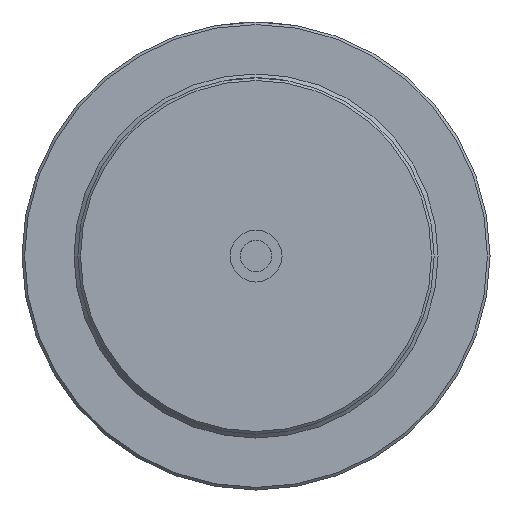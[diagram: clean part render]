
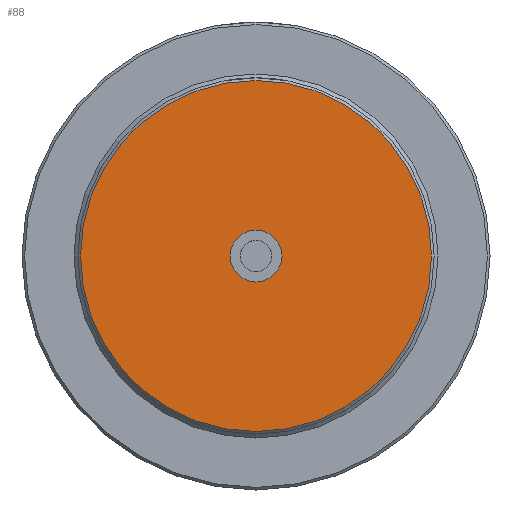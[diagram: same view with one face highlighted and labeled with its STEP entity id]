
A CAD part, left-side view. The second image highlights one B-rep face of the part: STEP entity #88.
In plain terms, the highlighted planar face has unit normal (-1, 0, 0).
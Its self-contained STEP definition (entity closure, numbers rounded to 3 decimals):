
#88 = ADVANCED_FACE( '', ( #146, #147 ), #148, .T. );
#146 = FACE_OUTER_BOUND( '', #238, .T. );
#147 = FACE_BOUND( '', #239, .T. );
#148 = PLANE( '', #240 );
#238 = EDGE_LOOP( '', ( #356 ) );
#239 = EDGE_LOOP( '', ( #357 ) );
#240 = AXIS2_PLACEMENT_3D( '', #358, #359, #360 );
#356 = ORIENTED_EDGE( '', *, *, #463, .T. );
#357 = ORIENTED_EDGE( '', *, *, #464, .F. );
#358 = CARTESIAN_POINT( '', ( 0., 0., 10. ) );
#359 = DIRECTION( '', ( -1., 0., 0. ) );
#360 = DIRECTION( '', ( 0., 0., 1. ) );
#463 = EDGE_CURVE( '', #513, #513, #514, .T. );
#464 = EDGE_CURVE( '', #515, #515, #516, .T. );
#513 = VERTEX_POINT( '', #732 );
#514 = CIRCLE( '', #733, 67.5 );
#515 = VERTEX_POINT( '', #734 );
#516 = CIRCLE( '', #735, 10. );
#732 = CARTESIAN_POINT( '', ( 0., 0., 67.5 ) );
#733 = AXIS2_PLACEMENT_3D( '', #806, #807, #808 );
#734 = CARTESIAN_POINT( '', ( 0., 0., 10. ) );
#735 = AXIS2_PLACEMENT_3D( '', #809, #810, #811 );
#806 = CARTESIAN_POINT( '', ( 0., 0., 0. ) );
#807 = DIRECTION( '', ( -1., 0., 0. ) );
#808 = DIRECTION( '', ( 0., 0., 1. ) );
#809 = CARTESIAN_POINT( '', ( 0., 0., 0. ) );
#810 = DIRECTION( '', ( -1., 0., 0. ) );
#811 = DIRECTION( '', ( 0., 0., 1. ) );
